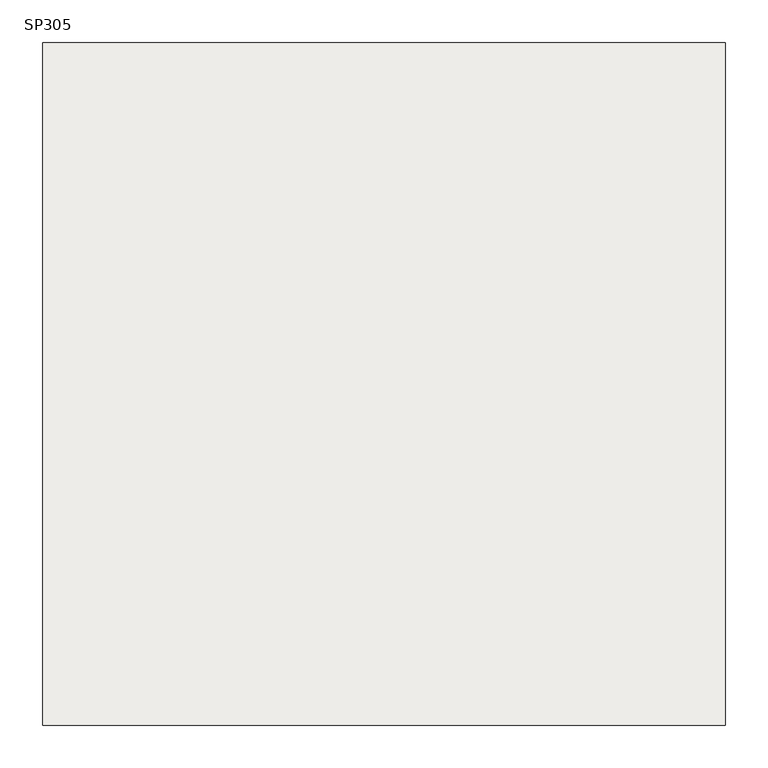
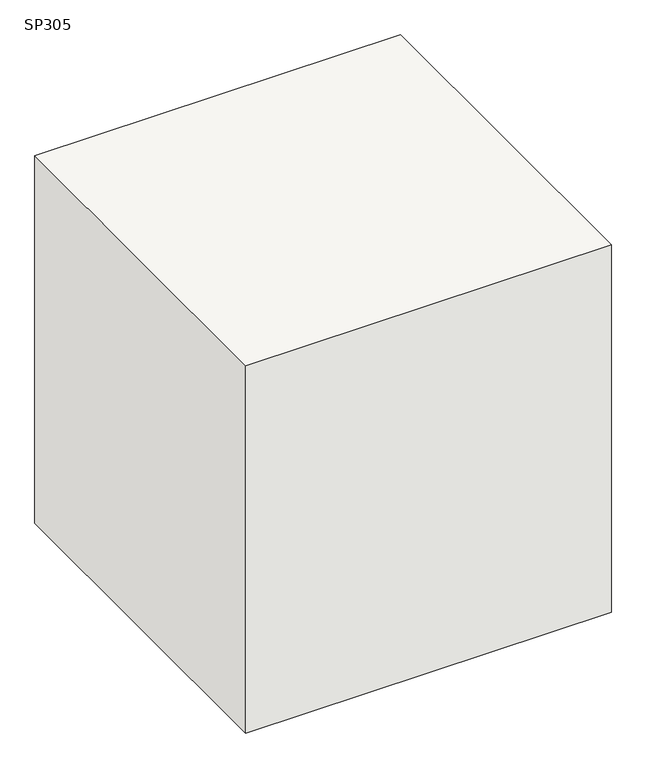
"""IFC4 building model written with IfcOpenShell, lengths in millimetres: slab geometry, 柱形_SP : SP305."""

import ifcopenshell
import ifcopenshell.guid

model = None  # the IFC model being written
_history = None  # IfcOwnerHistory: only IFC2X3 demands one
_inside = {}  # id of a spatial element -> (the spatial element, [elements in it])
_under = {}  # id of a project, library or spatial element -> (it, [spatial elements below it])
_declared = {}  # id of a project -> (the project, [libraries it declares])
_typed = {}  # id of a type object -> (the type object, [elements of that type])
_made_of = {}  # id of a material, layer set ... -> (it, [elements and type objects made of it])


def new_model(schema):
    """Start an empty IFC model of exactly this schema.

    Asked for "IFC4X3", IfcOpenShell would pick the latest addendum, in which some entities
    have other attributes; the version numbers below select the first issue.
    IFC2X3 requires an IfcOwnerHistory on every rooted entity: one is made here for all.
    """
    global model, _history
    if schema == "IFC4X3":
        model = ifcopenshell.file(schema_version=(4, 3, 0, 0))
    else:
        model = ifcopenshell.file(schema=schema)
    _inside.clear()
    _under.clear()
    _declared.clear()
    _typed.clear()
    _made_of.clear()
    _history = None
    if model.schema == "IFC2X3":
        org = make("IfcOrganization", Name="unknown")
        user = make(
            "IfcPersonAndOrganization",
            ThePerson=make("IfcPerson", FamilyName="unknown"),
            TheOrganization=org,
        )
        app = make(
            "IfcApplication",
            ApplicationDeveloper=org,
            Version="unknown",
            ApplicationFullName="unknown",
            ApplicationIdentifier="unknown",
        )
        _history = make(
            "IfcOwnerHistory",
            OwningUser=user,
            OwningApplication=app,
            ChangeAction="ADDED",
            CreationDate=0,
        )
    return model


def make(cls, **values):
    """One entity of the class cls with the attributes given. An attribute that is None is left unset."""
    return model.create_entity(
        cls, **{name: value for name, value in values.items() if value is not None}
    )


def rooted(cls, **values):
    """An entity with a GlobalId (a new one), such as an element, a storey or a relation."""
    return make(cls, GlobalId=ifcopenshell.guid.new(), OwnerHistory=_history, **values)


def si_unit(unit_type, name, prefix=None):
    """IfcSIUnit, for example si_unit("LENGTHUNIT", "METRE", prefix="MILLI")."""
    return make("IfcSIUnit", UnitType=unit_type, Prefix=prefix, Name=name)


def assignment(units):
    """IfcUnitAssignment: the units of a project."""
    return None if units is None else make("IfcUnitAssignment", Units=units)


def point(xyz):
    """IfcCartesianPoint."""
    return None if xyz is None else make("IfcCartesianPoint", Coordinates=xyz)


def direction(xyz):
    """IfcDirection."""
    return None if xyz is None else make("IfcDirection", DirectionRatios=xyz)


def frame(location, z_axis=None, x_axis=None):
    """IfcAxis2Placement3D, a coordinate frame: its origin and axes. An axis left out is left unset."""
    return make(
        "IfcAxis2Placement3D",
        Location=point(location),
        Axis=direction(z_axis),
        RefDirection=direction(x_axis),
    )


def origin():
    """The frame at (0, 0, 0) with its axes left unset."""
    return frame((0.0, 0.0, 0.0))


def place(relative_to, where):
    """IfcLocalPlacement: puts the frame where relative to a parent placement (None: the world)."""
    return make(
        "IfcLocalPlacement", PlacementRelTo=relative_to, RelativePlacement=where
    )


def context(
    kind, dimensions, precision=None, world=None, true_north=None, identifier=None
):
    """IfcGeometricRepresentationContext, for example the 3D "Model" context."""
    return make(
        "IfcGeometricRepresentationContext",
        ContextIdentifier=identifier,
        ContextType=kind,
        CoordinateSpaceDimension=dimensions,
        Precision=precision,
        WorldCoordinateSystem=world,
        TrueNorth=true_north,
    )


def project(units=None, contexts=None):
    """IfcProject with its units and contexts."""
    return rooted(
        "IfcProject",
        Name="project",
        RepresentationContexts=contexts,
        UnitsInContext=assignment(units),
    )


def spatial(cls, under=None, at=None, **own):
    """A site, building, storey or space (cls), placed at a placement, below another one or the project."""
    s = rooted(cls, ObjectPlacement=at, **own)
    if under is not None:
        _under.setdefault(under.id(), (under, []))[1].append(s)
    return s


def polyline(points):
    """IfcPolyline through the points."""
    return make("IfcPolyline", Points=[point(p) for p in points])


def outline(outer, holes=None, kind="AREA"):
    """IfcArbitraryClosedProfileDef: a profile drawn as a closed curve; with holes, ...WithVoids."""
    if holes is None:
        return make("IfcArbitraryClosedProfileDef", ProfileType=kind, OuterCurve=outer)
    return make(
        "IfcArbitraryProfileDefWithVoids",
        ProfileType=kind,
        OuterCurve=outer,
        InnerCurves=holes,
    )


def extrude(swept, where, along, depth):
    """IfcExtrudedAreaSolid: the profile swept, set in the frame where, extruded along a direction by depth."""
    return make(
        "IfcExtrudedAreaSolid",
        SweptArea=swept,
        Position=where,
        ExtrudedDirection=direction(along),
        Depth=depth,
    )


def shape(context_of_items, identifier, shape_type, items):
    """IfcShapeRepresentation: the items that make up one representation, for example the "Body"."""
    return make(
        "IfcShapeRepresentation",
        ContextOfItems=context_of_items,
        RepresentationIdentifier=identifier,
        RepresentationType=shape_type,
        Items=items,
    )


def source(mapping_origin, context_of_items, identifier, shape_type, items):
    """IfcRepresentationMap: a shape defined once, which mapped items show again and again."""
    return make(
        "IfcRepresentationMap",
        MappingOrigin=mapping_origin,
        MappedRepresentation=shape(context_of_items, identifier, shape_type, items),
    )


def transform(
    local_origin,
    x_axis=None,
    y_axis=None,
    z_axis=None,
    scale=None,
    scale2=None,
    scale3=None,
    uniform=True,
):
    """IfcCartesianTransformationOperator3D, or its non-uniform kind. x_axis, y_axis, z_axis: its Axis1, 2, 3."""
    if uniform:
        return make(
            "IfcCartesianTransformationOperator3D",
            Axis1=direction(x_axis),
            Axis2=direction(y_axis),
            LocalOrigin=point(local_origin),
            Scale=scale,
            Axis3=direction(z_axis),
        )
    return make(
        "IfcCartesianTransformationOperator3DnonUniform",
        Axis1=direction(x_axis),
        Axis2=direction(y_axis),
        LocalOrigin=point(local_origin),
        Scale=scale,
        Axis3=direction(z_axis),
        Scale2=scale2,
        Scale3=scale3,
    )


def mapped(mapping_source, mapping_target):
    """IfcMappedItem: shows the shape of a source again, moved by a transform."""
    return make(
        "IfcMappedItem", MappingSource=mapping_source, MappingTarget=mapping_target
    )


def made_of(thing, what):
    """Note that an element or type object is made of a material, layer set ...; save() writes the relation."""
    if what is not None:
        _made_of.setdefault(what.id(), (what, []))[1].append(thing)
    return thing


def element(
    cls,
    number,
    at=None,
    inside=None,
    cuts=None,
    type_object=None,
    material=None,
    context=None,
    identifier="Body",
    shape_type=None,
    held_by="IfcProductDefinitionShape",
    body=None,
    shapes=None,
    **own,
):
    """One element of the class cls, such as IfcWall. Its Tag is "e" and its number.

    at: its placement. inside: the storey or other place that contains it. cuts: it is an
    opening in that element (IfcRelVoidsElement). A single representation is given by context,
    identifier, shape_type and body (its items); several are given by shapes. held_by: the class
    of the entity that holds the representations. save() writes the other relations.
    """
    e = rooted(cls, Tag="e%d" % number, ObjectPlacement=at, **own)
    if body is not None:
        shapes = [shape(context, identifier, shape_type, body)]
    if shapes is not None:
        e.Representation = make(held_by, Representations=shapes)
    if inside is not None:
        _inside.setdefault(inside.id(), (inside, []))[1].append(e)
    if cuts is not None:
        rooted(
            "IfcRelVoidsElement", RelatingBuildingElement=cuts, RelatedOpeningElement=e
        )
    if type_object is not None:
        _typed.setdefault(type_object.id(), (type_object, []))[1].append(e)
    return made_of(e, material)


def aggregate(whole, parts):
    """IfcRelAggregates: a whole, such as a stair, and the parts it consists of."""
    return rooted("IfcRelAggregates", RelatingObject=whole, RelatedObjects=parts)


def save(model, path):
    """Write the relations noted so far, then the file.

    IfcRelAggregates (storeys below a building ...), IfcRelContainedInSpatialStructure (elements
    in a storey), IfcRelDefinesByType, IfcRelAssociatesMaterial and IfcRelDeclares: one each for
    every whole, place, type object, material and project.
    """
    for whole, parts in _under.values():
        aggregate(whole, parts)
    for where, things in _inside.values():
        rooted(
            "IfcRelContainedInSpatialStructure",
            RelatedElements=things,
            RelatingStructure=where,
        )
    for kind, things in _typed.values():
        rooted("IfcRelDefinesByType", RelatedObjects=things, RelatingType=kind)
    for what, things in _made_of.values():
        rooted("IfcRelAssociatesMaterial", RelatedObjects=things, RelatingMaterial=what)
    for by, libraries in _declared.values():
        rooted("IfcRelDeclares", RelatingContext=by, RelatedDefinitions=libraries)
    model.write(path)


def sp305_9777ce12(model_context):
    return source(origin(), model_context, "Body", "SweptSolid", [
        extrude(outline(polyline([(400.0, 400.0), (400.0, -400.0), (-400.0, -400.0), (-400.0, 400.0), (400.0, 400.0)])), frame((0.0, 0.0, -850.0), z_axis=(0.0, 0.0, 1.0), x_axis=(1.0, 0.0, 0.0)), (0.0, 0.0, 1.0), 850.0),
    ])


if __name__ == "__main__":
    model = new_model("IFC4")
    model_context = context("Model", 3, world=origin())
    ifc_project = project(units=[si_unit("LENGTHUNIT", "METRE", prefix="MILLI")], contexts=[model_context])
    site = spatial("IfcSite", under=ifc_project)
    building = spatial("IfcBuilding", under=site)
    placement = place(None, origin())
    sp305_shape = sp305_9777ce12(model_context)
    element("IfcSlab", 1, ObjectType="柱形_SP : SP305", at=placement, inside=building, context=model_context, shape_type="MappedRepresentation", body=[
        mapped(sp305_shape, transform((0.0, 0.0, 0.0), x_axis=(1.0, 0.0, 0.0), y_axis=(0.0, 1.0, 0.0), z_axis=(0.0, 0.0, 1.0))),
    ])
    save(model, "model.ifc")
